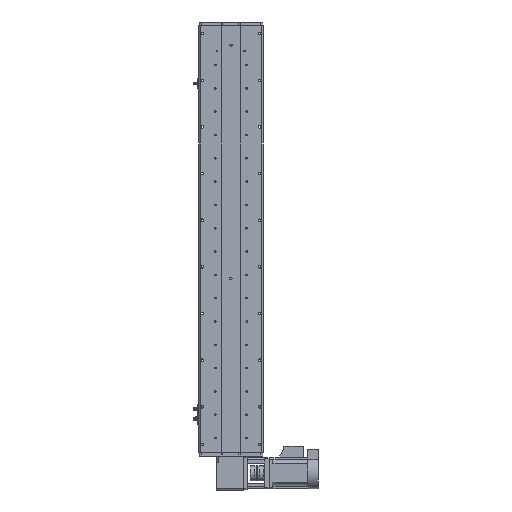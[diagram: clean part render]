
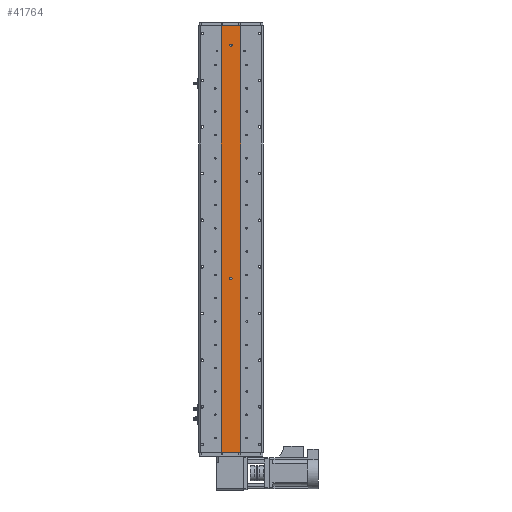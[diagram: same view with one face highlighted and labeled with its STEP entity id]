
A CAD part, front view. The second image highlights one B-rep face of the part: STEP entity #41764.
In plain terms, the highlighted planar face has unit normal (0, -1, 0).
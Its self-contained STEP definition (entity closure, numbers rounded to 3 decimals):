
#618 = CARTESIAN_POINT ( 'NONE',  ( -25., 1., 548.5 ) ) ;
#1539 = AXIS2_PLACEMENT_3D ( 'NONE', #41240, #22466, #25030 ) ;
#1586 = AXIS2_PLACEMENT_3D ( 'NONE', #12616, #12443, #12178 ) ;
#1867 = ORIENTED_EDGE ( 'NONE', *, *, #45446, .T. ) ;
#2027 = DIRECTION ( 'NONE',  ( 0., -1., 0. ) ) ;
#2172 = VERTEX_POINT ( 'NONE', #30806 ) ;
#2723 = CARTESIAN_POINT ( 'NONE',  ( -25., 1., -548.5 ) ) ;
#2757 = CARTESIAN_POINT ( 'NONE',  ( 0., 1., 501.5 ) ) ;
#2845 = EDGE_CURVE ( 'NONE', #18626, #33919, #17707, .T. ) ;
#3652 = DIRECTION ( 'NONE',  ( 0., 0., -1. ) ) ;
#5854 = DIRECTION ( 'NONE',  ( 0., 0., -1. ) ) ;
#10026 = VECTOR ( 'NONE', #5854, 1000. ) ;
#10153 = CIRCLE ( 'NONE', #28783, 3. ) ;
#11154 = CIRCLE ( 'NONE', #22041, 3. ) ;
#12055 = DIRECTION ( 'NONE',  ( 1., 0., 0. ) ) ;
#12139 = FACE_BOUND ( 'NONE', #21736, .T. ) ;
#12178 = DIRECTION ( 'NONE',  ( 0., 0., -1. ) ) ;
#12443 = DIRECTION ( 'NONE',  ( 0., -1., 0. ) ) ;
#12561 = DIRECTION ( 'NONE',  ( 0., -1., 0. ) ) ;
#12616 = CARTESIAN_POINT ( 'NONE',  ( 0., 1., -101.5 ) ) ;
#13181 = VECTOR ( 'NONE', #22532, 1000. ) ;
#13742 = ORIENTED_EDGE ( 'NONE', *, *, #39277, .F. ) ;
#14265 = AXIS2_PLACEMENT_3D ( 'NONE', #39966, #17611, #43737 ) ;
#14779 = VERTEX_POINT ( 'NONE', #43689 ) ;
#17611 = DIRECTION ( 'NONE',  ( 0., -1., 0. ) ) ;
#17707 = CIRCLE ( 'NONE', #1586, 3. ) ;
#18626 = VERTEX_POINT ( 'NONE', #39452 ) ;
#19816 = EDGE_CURVE ( 'NONE', #14779, #30588, #22868, .T. ) ;
#20793 = CARTESIAN_POINT ( 'NONE',  ( 0., 1., -98.5 ) ) ;
#20883 = EDGE_CURVE ( 'NONE', #47013, #26294, #23340, .T. ) ;
#21736 = EDGE_LOOP ( 'NONE', ( #42881, #22429 ) ) ;
#22041 = AXIS2_PLACEMENT_3D ( 'NONE', #34966, #12561, #38717 ) ;
#22429 = ORIENTED_EDGE ( 'NONE', *, *, #34230, .F. ) ;
#22466 = DIRECTION ( 'NONE',  ( 0., 1., 0. ) ) ;
#22532 = DIRECTION ( 'NONE',  ( 1., 0., 0. ) ) ;
#22621 = PLANE ( 'NONE',  #1539 ) ;
#22868 = CIRCLE ( 'NONE', #14265, 3. ) ;
#23023 = EDGE_CURVE ( 'NONE', #33919, #18626, #10153, .T. ) ;
#23340 = LINE ( 'NONE', #48555, #42051 ) ;
#24585 = CARTESIAN_POINT ( 'NONE',  ( 0., 1., -101.5 ) ) ;
#25030 = DIRECTION ( 'NONE',  ( 0., 0., 1. ) ) ;
#25222 = EDGE_LOOP ( 'NONE', ( #25979, #37667 ) ) ;
#25507 = ORIENTED_EDGE ( 'NONE', *, *, #28397, .F. ) ;
#25979 = ORIENTED_EDGE ( 'NONE', *, *, #2845, .F. ) ;
#26294 = VERTEX_POINT ( 'NONE', #2723 ) ;
#28340 = DIRECTION ( 'NONE',  ( 0., 0., -1. ) ) ;
#28397 = EDGE_CURVE ( 'NONE', #47013, #34426, #41834, .T. ) ;
#28433 = ORIENTED_EDGE ( 'NONE', *, *, #20883, .T. ) ;
#28502 = CARTESIAN_POINT ( 'NONE',  ( 25., 1., 548.5 ) ) ;
#28783 = AXIS2_PLACEMENT_3D ( 'NONE', #24585, #2027, #28340 ) ;
#29965 = LINE ( 'NONE', #28502, #10026 ) ;
#30166 = EDGE_LOOP ( 'NONE', ( #1867, #13742, #25507, #28433 ) ) ;
#30588 = VERTEX_POINT ( 'NONE', #2757 ) ;
#30806 = CARTESIAN_POINT ( 'NONE',  ( 25., 1., -548.5 ) ) ;
#30875 = CARTESIAN_POINT ( 'NONE',  ( 25., 1., -548.5 ) ) ;
#30878 = FACE_BOUND ( 'NONE', #25222, .T. ) ;
#32347 = CARTESIAN_POINT ( 'NONE',  ( 25., 1., 548.5 ) ) ;
#32569 = LINE ( 'NONE', #30875, #41835 ) ;
#33919 = VERTEX_POINT ( 'NONE', #20793 ) ;
#34230 = EDGE_CURVE ( 'NONE', #30588, #14779, #11154, .T. ) ;
#34426 = VERTEX_POINT ( 'NONE', #32347 ) ;
#34966 = CARTESIAN_POINT ( 'NONE',  ( 0., 1., 498.5 ) ) ;
#37667 = ORIENTED_EDGE ( 'NONE', *, *, #23023, .F. ) ;
#38717 = DIRECTION ( 'NONE',  ( 0., 0., -1. ) ) ;
#39277 = EDGE_CURVE ( 'NONE', #34426, #2172, #29965, .T. ) ;
#39452 = CARTESIAN_POINT ( 'NONE',  ( 0., 1., -104.5 ) ) ;
#39966 = CARTESIAN_POINT ( 'NONE',  ( 0., 1., 498.5 ) ) ;
#40824 = FACE_OUTER_BOUND ( 'NONE', #30166, .T. ) ;
#41240 = CARTESIAN_POINT ( 'NONE',  ( 25., 1., 548.5 ) ) ;
#41764 = ADVANCED_FACE ( 'NONE', ( #12139, #30878, #40824 ), #22621, .F. ) ;
#41834 = LINE ( 'NONE', #44921, #13181 ) ;
#41835 = VECTOR ( 'NONE', #12055, 1000. ) ;
#42051 = VECTOR ( 'NONE', #3652, 1000. ) ;
#42881 = ORIENTED_EDGE ( 'NONE', *, *, #19816, .F. ) ;
#43689 = CARTESIAN_POINT ( 'NONE',  ( 0., 1., 495.5 ) ) ;
#43737 = DIRECTION ( 'NONE',  ( 0., 0., -1. ) ) ;
#44921 = CARTESIAN_POINT ( 'NONE',  ( 25., 1., 548.5 ) ) ;
#45446 = EDGE_CURVE ( 'NONE', #26294, #2172, #32569, .T. ) ;
#47013 = VERTEX_POINT ( 'NONE', #618 ) ;
#48555 = CARTESIAN_POINT ( 'NONE',  ( -25., 1., 548.5 ) ) ;
